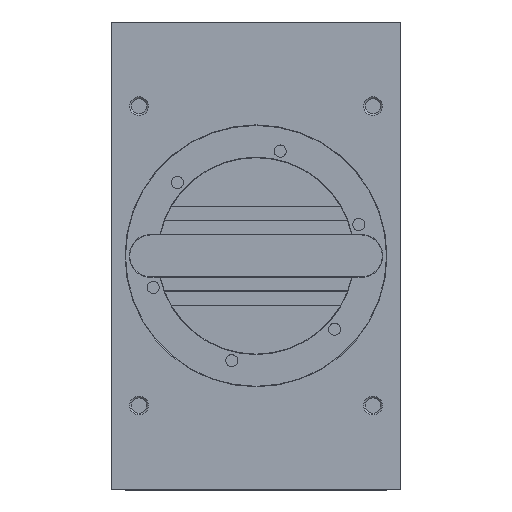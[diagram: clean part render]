
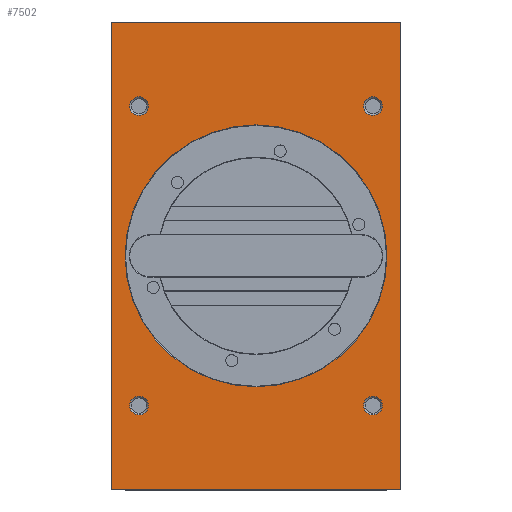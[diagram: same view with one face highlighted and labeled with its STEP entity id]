
A CAD part, top view. The second image highlights one B-rep face of the part: STEP entity #7502.
In plain terms, the highlighted planar face has unit normal (0, 0, -1).
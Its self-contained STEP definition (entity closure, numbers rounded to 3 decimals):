
#229 = VECTOR ( 'NONE', #11230, 1000. ) ;
#563 = EDGE_CURVE ( 'NONE', #12934, #2119, #7405, .T. ) ;
#629 = DIRECTION ( 'NONE',  ( 1., 0., 0. ) ) ;
#761 = FACE_BOUND ( 'NONE', #1053, .T. ) ;
#1005 = DIRECTION ( 'NONE',  ( 0., 0., 1. ) ) ;
#1053 = EDGE_LOOP ( 'NONE', ( #4569 ) ) ;
#1185 = ORIENTED_EDGE ( 'NONE', *, *, #13442, .F. ) ;
#1201 = CARTESIAN_POINT ( 'NONE',  ( 17.417, -36.062, 100. ) ) ;
#1259 = EDGE_LOOP ( 'NONE', ( #14643 ) ) ;
#1323 = CIRCLE ( 'NONE', #15972, 2. ) ;
#1997 = CARTESIAN_POINT ( 'NONE',  ( -7.583, -2.062, 100. ) ) ;
#2003 = AXIS2_PLACEMENT_3D ( 'NONE', #18344, #1005, #629 ) ;
#2119 = VERTEX_POINT ( 'NONE', #15836 ) ;
#2256 = LINE ( 'NONE', #18167, #3364 ) ;
#2298 = ORIENTED_EDGE ( 'NONE', *, *, #563, .F. ) ;
#2508 = CIRCLE ( 'NONE', #23269, 28. ) ;
#2672 = FACE_BOUND ( 'NONE', #23096, .T. ) ;
#2934 = FACE_BOUND ( 'NONE', #6371, .T. ) ;
#3364 = VECTOR ( 'NONE', #21633, 1000. ) ;
#3495 = DIRECTION ( 'NONE',  ( 0., -1., 0. ) ) ;
#4280 = ORIENTED_EDGE ( 'NONE', *, *, #17236, .F. ) ;
#4569 = ORIENTED_EDGE ( 'NONE', *, *, #11530, .T. ) ;
#4738 = EDGE_LOOP ( 'NONE', ( #23685 ) ) ;
#4928 = CARTESIAN_POINT ( 'NONE',  ( 23.317, -2.062, 100. ) ) ;
#5049 = LINE ( 'NONE', #4928, #23135 ) ;
#5642 = VERTEX_POINT ( 'NONE', #13677 ) ;
#6023 = CARTESIAN_POINT ( 'NONE',  ( -32.583, 27.938, 100. ) ) ;
#6267 = VERTEX_POINT ( 'NONE', #14313 ) ;
#6371 = EDGE_LOOP ( 'NONE', ( #14767 ) ) ;
#6962 = EDGE_CURVE ( 'NONE', #10659, #24966, #5049, .T. ) ;
#7067 = DIRECTION ( 'NONE',  ( 0., 0., -1. ) ) ;
#7185 = CARTESIAN_POINT ( 'NONE',  ( 23.317, -51.962, 100. ) ) ;
#7195 = CARTESIAN_POINT ( 'NONE',  ( -38.483, 47.838, 100. ) ) ;
#7405 = LINE ( 'NONE', #23222, #12645 ) ;
#7437 = CARTESIAN_POINT ( 'NONE',  ( 20.417, -2.062, 100. ) ) ;
#7502 = ADVANCED_FACE ( 'NONE', ( #12352, #2672, #2934, #10826, #761, #18087 ), #20252, .F. ) ;
#7850 = DIRECTION ( 'NONE',  ( 1., 0., 0. ) ) ;
#8227 = DIRECTION ( 'NONE',  ( 0., 0., 1. ) ) ;
#8971 = CIRCLE ( 'NONE', #22390, 2. ) ;
#9210 = CARTESIAN_POINT ( 'NONE',  ( 17.417, 29.938, 100. ) ) ;
#9800 = DIRECTION ( 'NONE',  ( 0., -1., 0. ) ) ;
#9955 = EDGE_CURVE ( 'NONE', #18665, #18665, #8971, .T. ) ;
#10659 = VERTEX_POINT ( 'NONE', #7185 ) ;
#10826 = FACE_BOUND ( 'NONE', #1259, .T. ) ;
#11230 = DIRECTION ( 'NONE',  ( 1., 0., 0. ) ) ;
#11530 = EDGE_CURVE ( 'NONE', #15603, #15603, #2508, .T. ) ;
#12074 = AXIS2_PLACEMENT_3D ( 'NONE', #18670, #7067, #3495 ) ;
#12255 = EDGE_CURVE ( 'NONE', #5642, #5642, #1323, .T. ) ;
#12352 = FACE_BOUND ( 'NONE', #4738, .T. ) ;
#12645 = VECTOR ( 'NONE', #17599, 1000. ) ;
#12772 = LINE ( 'NONE', #18632, #229 ) ;
#12934 = VERTEX_POINT ( 'NONE', #7195 ) ;
#13026 = CARTESIAN_POINT ( 'NONE',  ( -32.583, -34.062, 100. ) ) ;
#13442 = EDGE_CURVE ( 'NONE', #24966, #12934, #2256, .T. ) ;
#13677 = CARTESIAN_POINT ( 'NONE',  ( -32.583, -36.062, 100. ) ) ;
#14313 = CARTESIAN_POINT ( 'NONE',  ( 17.417, 27.938, 100. ) ) ;
#14460 = AXIS2_PLACEMENT_3D ( 'NONE', #9210, #18769, #24511 ) ;
#14643 = ORIENTED_EDGE ( 'NONE', *, *, #19463, .F. ) ;
#14767 = ORIENTED_EDGE ( 'NONE', *, *, #18018, .F. ) ;
#14883 = CIRCLE ( 'NONE', #14460, 2. ) ;
#15038 = ORIENTED_EDGE ( 'NONE', *, *, #9955, .F. ) ;
#15603 = VERTEX_POINT ( 'NONE', #7437 ) ;
#15782 = DIRECTION ( 'NONE',  ( 0., 0., -1. ) ) ;
#15836 = CARTESIAN_POINT ( 'NONE',  ( -38.483, -51.962, 100. ) ) ;
#15972 = AXIS2_PLACEMENT_3D ( 'NONE', #13026, #16739, #22963 ) ;
#16032 = CARTESIAN_POINT ( 'NONE',  ( 17.417, -34.062, 100. ) ) ;
#16651 = EDGE_LOOP ( 'NONE', ( #24955, #4280, #2298, #1185 ) ) ;
#16739 = DIRECTION ( 'NONE',  ( 0., 0., -1. ) ) ;
#17236 = EDGE_CURVE ( 'NONE', #2119, #10659, #12772, .T. ) ;
#17599 = DIRECTION ( 'NONE',  ( 0., -1., 0. ) ) ;
#17966 = CARTESIAN_POINT ( 'NONE',  ( 23.317, 47.838, 100. ) ) ;
#18018 = EDGE_CURVE ( 'NONE', #23745, #23745, #21433, .T. ) ;
#18087 = FACE_OUTER_BOUND ( 'NONE', #16651, .T. ) ;
#18167 = CARTESIAN_POINT ( 'NONE',  ( -7.583, 47.838, 100. ) ) ;
#18344 = CARTESIAN_POINT ( 'NONE',  ( -38.483, -51.962, 100. ) ) ;
#18632 = CARTESIAN_POINT ( 'NONE',  ( -7.583, -51.962, 100. ) ) ;
#18665 = VERTEX_POINT ( 'NONE', #1201 ) ;
#18670 = CARTESIAN_POINT ( 'NONE',  ( -32.583, 29.938, 100. ) ) ;
#18769 = DIRECTION ( 'NONE',  ( 0., 0., -1. ) ) ;
#19463 = EDGE_CURVE ( 'NONE', #6267, #6267, #14883, .T. ) ;
#20252 = PLANE ( 'NONE',  #2003 ) ;
#20852 = DIRECTION ( 'NONE',  ( 0., 1., 0. ) ) ;
#21433 = CIRCLE ( 'NONE', #12074, 2. ) ;
#21633 = DIRECTION ( 'NONE',  ( -1., 0., 0. ) ) ;
#22390 = AXIS2_PLACEMENT_3D ( 'NONE', #16032, #15782, #9800 ) ;
#22963 = DIRECTION ( 'NONE',  ( 0., -1., 0. ) ) ;
#23096 = EDGE_LOOP ( 'NONE', ( #15038 ) ) ;
#23135 = VECTOR ( 'NONE', #20852, 1000. ) ;
#23222 = CARTESIAN_POINT ( 'NONE',  ( -38.483, -2.062, 100. ) ) ;
#23269 = AXIS2_PLACEMENT_3D ( 'NONE', #1997, #8227, #7850 ) ;
#23685 = ORIENTED_EDGE ( 'NONE', *, *, #12255, .F. ) ;
#23745 = VERTEX_POINT ( 'NONE', #6023 ) ;
#24511 = DIRECTION ( 'NONE',  ( 0., -1., 0. ) ) ;
#24955 = ORIENTED_EDGE ( 'NONE', *, *, #6962, .F. ) ;
#24966 = VERTEX_POINT ( 'NONE', #17966 ) ;
